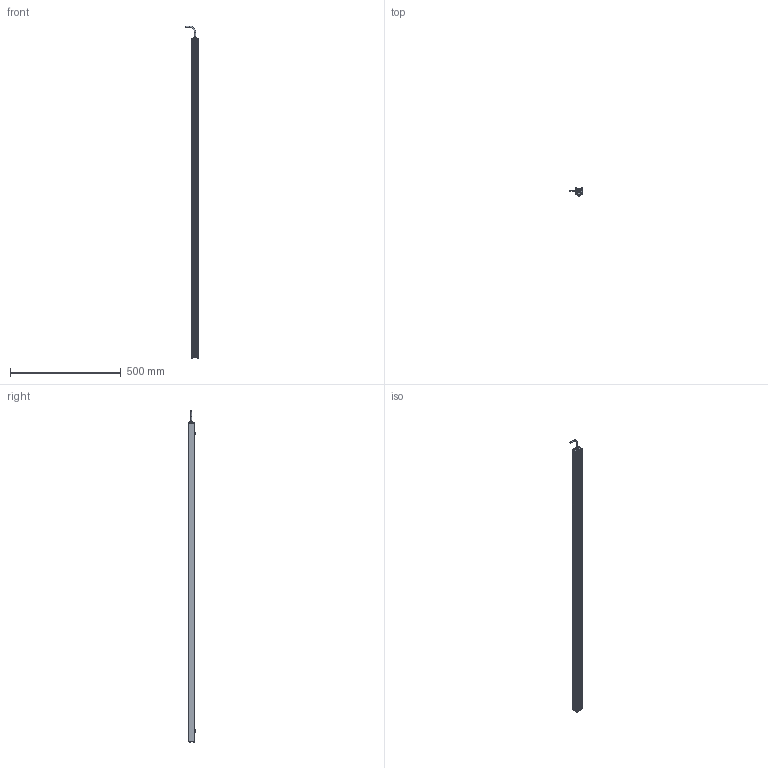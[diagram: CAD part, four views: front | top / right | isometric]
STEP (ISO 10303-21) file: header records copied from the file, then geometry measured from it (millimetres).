
FILE_DESCRIPTION (( 'STEP AP214' ), '1' );
FILE_NAME ('AL150XXXX_AL150330.stp', '2021-04-29T15:41:44', ( '' ), ( '' ), 'SwSTEP 2.0', 'SolidWorks 2018', '' );
FILE_SCHEMA (( 'AUTOMOTIVE_DESIGN' ));
Length unit declared in the file: inch
Products named in the file (12): Part1^AL150XXXX; 150-03-006-XXXX_150-03-006-330; 116-02-006; 092408_TRUNCATED; AL150XXXX_AL150330; 093145_93701A253; CHM6x8_91460A312; 1157 (no strap); Part2^AL150XXXX; 116-02-007; 150-01-005-XXX_150-01-005-330; HN-M6_90592A016
Assembly tree (18 placements, depth 2):
  Part1^AL150XXXX
  AL150XXXX_AL150330
    150-01-005-XXX_150-01-005-330
    116-02-006
    093145_93701A253  x8
    HN-M6_90592A016  x2
    CHM6x8_91460A312  x2
    150-03-006-XXXX_150-03-006-330
    116-02-007
    1157 (no strap)
    092408_TRUNCATED
  Part2^AL150XXXX
Bounding box: 60.68 x 33.84 x 1500.81 mm (x, y, z)
Volume: 447967.8 mm3; surface area: 473739.6 mm2
Topology: 26 solids, 26 shells, 1306 faces, 3436 edges, 2127 vertices
Faces by surface type: cylinder 805, cone 249, plane 153, torus 59, bspline 32, sphere 8
Entity records: 18285 total; most frequent: CARTESIAN_POINT 6069, ORIENTED_EDGE 2496, DIRECTION 2311, EDGE_CURVE 1248, AXIS2_PLACEMENT_3D 881, VERTEX_POINT 800, LINE 549, VECTOR 549
